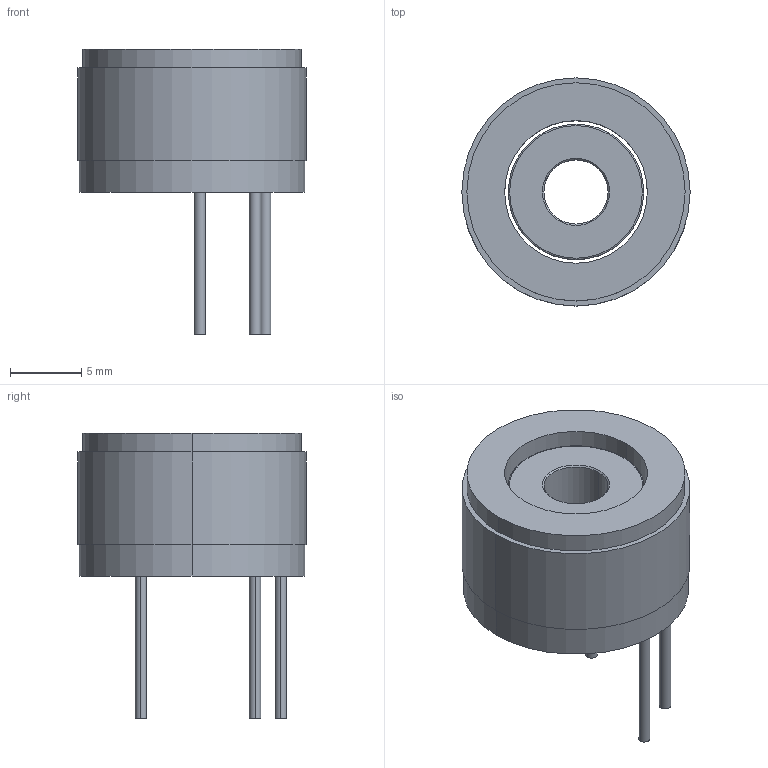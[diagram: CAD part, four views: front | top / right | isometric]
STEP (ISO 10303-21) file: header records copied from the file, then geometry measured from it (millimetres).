
FILE_DESCRIPTION (( 'STEP AP203' ), '1' );
FILE_NAME ('U1610萇儂耀倰.STEP', '2026-07-08T05:53:45', ( 'Windows User' ), ( 'P R C' ), 'SwSTEP 2.0', 'SolidWorks 2023', '' );
FILE_SCHEMA (( 'CONFIG_CONTROL_DESIGN' ));
Length unit declared in the file: millimetre
Products named in the file (1): U1610电机模型
Bounding box: 16 x 16 x 20 mm (x, y, z)
Volume: 1597 mm3; surface area: 1551 mm2
Topology: 2 solids, 2 shells, 35 faces, 70 edges, 44 vertices
Faces by surface type: cylinder 18, plane 9, cone 4, torus 4
Entity records: 1011 total; most frequent: DIRECTION 190, CARTESIAN_POINT 150, ORIENTED_EDGE 140, AXIS2_PLACEMENT_3D 84, EDGE_CURVE 70, CIRCLE 48, EDGE_LOOP 44, VERTEX_POINT 44
